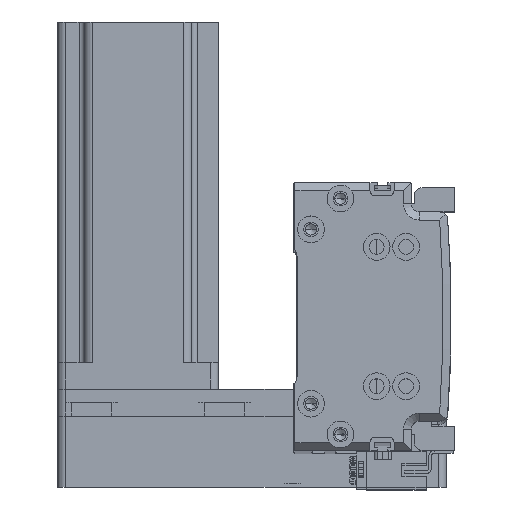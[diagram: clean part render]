
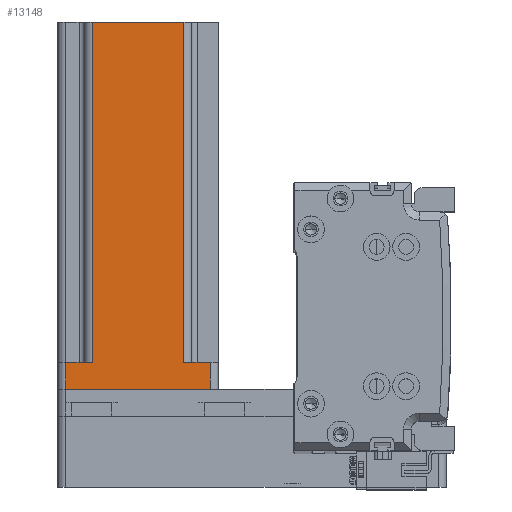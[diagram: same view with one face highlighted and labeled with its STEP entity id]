
A CAD part, top view. The second image highlights one B-rep face of the part: STEP entity #13148.
In plain terms, the highlighted planar face has unit normal (0, 0, 1) as drawn and (0, 1, 0) by its records, which use the part's own axes.
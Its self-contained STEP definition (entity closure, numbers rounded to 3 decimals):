
#174 = CARTESIAN_POINT ( 'NONE',  ( 27., 30., 10. ) ) ;
#343 = CARTESIAN_POINT ( 'NONE',  ( 30., 30., 137. ) ) ;
#631 = CARTESIAN_POINT ( 'NONE',  ( -17., 30., 137. ) ) ;
#3652 = LINE ( 'NONE', #26384, #23721 ) ;
#3833 = VECTOR ( 'NONE', #45437, 1000. ) ;
#4205 = DIRECTION ( 'NONE',  ( 1., 0., 0. ) ) ;
#4433 = DIRECTION ( 'NONE',  ( 0., 0., 1. ) ) ;
#4490 = CARTESIAN_POINT ( 'NONE',  ( -17., 30., 10. ) ) ;
#5105 = ORIENTED_EDGE ( 'NONE', *, *, #32212, .F. ) ;
#5230 = ORIENTED_EDGE ( 'NONE', *, *, #43124, .T. ) ;
#5277 = CARTESIAN_POINT ( 'NONE',  ( -27., 30., 10. ) ) ;
#5609 = PLANE ( 'NONE',  #17684 ) ;
#7301 = EDGE_CURVE ( 'NONE', #39739, #29959, #36717, .T. ) ;
#7689 = VECTOR ( 'NONE', #38710, 1000. ) ;
#8417 = CARTESIAN_POINT ( 'NONE',  ( -20., 30., 10. ) ) ;
#9297 = EDGE_CURVE ( 'NONE', #39739, #21853, #19296, .T. ) ;
#10452 = ORIENTED_EDGE ( 'NONE', *, *, #7301, .F. ) ;
#10565 = DIRECTION ( 'NONE',  ( 0., 0., -1. ) ) ;
#12074 = CARTESIAN_POINT ( 'NONE',  ( 17., 30., 137. ) ) ;
#12279 = ORIENTED_EDGE ( 'NONE', *, *, #38442, .T. ) ;
#12531 = EDGE_CURVE ( 'NONE', #24898, #43640, #17878, .T. ) ;
#12969 = VECTOR ( 'NONE', #24560, 1000. ) ;
#13148 = ADVANCED_FACE ( 'NONE', ( #27838 ), #5609, .F. ) ;
#13780 = LINE ( 'NONE', #18903, #3833 ) ;
#14311 = EDGE_CURVE ( 'NONE', #31777, #24898, #38993, .T. ) ;
#15741 = DIRECTION ( 'NONE',  ( 0., 0., 1. ) ) ;
#17684 = AXIS2_PLACEMENT_3D ( 'NONE', #343, #26777, #4205 ) ;
#17878 = LINE ( 'NONE', #8417, #38044 ) ;
#18903 = CARTESIAN_POINT ( 'NONE',  ( 27., 30., 137. ) ) ;
#19296 = LINE ( 'NONE', #12074, #28171 ) ;
#19492 = LINE ( 'NONE', #631, #48574 ) ;
#19963 = ORIENTED_EDGE ( 'NONE', *, *, #14311, .T. ) ;
#20521 = CARTESIAN_POINT ( 'NONE',  ( -17., 30., 137. ) ) ;
#21606 = CARTESIAN_POINT ( 'NONE',  ( 17., 30., 137. ) ) ;
#21853 = VERTEX_POINT ( 'NONE', #39323 ) ;
#23721 = VECTOR ( 'NONE', #48971, 1000. ) ;
#24090 = VERTEX_POINT ( 'NONE', #174 ) ;
#24560 = DIRECTION ( 'NONE',  ( -1., 0., 0. ) ) ;
#24898 = VERTEX_POINT ( 'NONE', #5277 ) ;
#25183 = EDGE_CURVE ( 'NONE', #43640, #29959, #19492, .T. ) ;
#25212 = ORIENTED_EDGE ( 'NONE', *, *, #9297, .T. ) ;
#26384 = CARTESIAN_POINT ( 'NONE',  ( 20., 30., 10. ) ) ;
#26777 = DIRECTION ( 'NONE',  ( 0., -1., 0. ) ) ;
#27159 = CARTESIAN_POINT ( 'NONE',  ( -27., 30., 137. ) ) ;
#27685 = VECTOR ( 'NONE', #15741, 1000. ) ;
#27838 = FACE_OUTER_BOUND ( 'NONE', #45141, .T. ) ;
#28171 = VECTOR ( 'NONE', #10565, 1000. ) ;
#28522 = CARTESIAN_POINT ( 'NONE',  ( 30., 30., 137. ) ) ;
#29959 = VERTEX_POINT ( 'NONE', #20521 ) ;
#31777 = VERTEX_POINT ( 'NONE', #46698 ) ;
#31784 = CARTESIAN_POINT ( 'NONE',  ( 27., 30., 0. ) ) ;
#32212 = EDGE_CURVE ( 'NONE', #24090, #21853, #3652, .T. ) ;
#33124 = ORIENTED_EDGE ( 'NONE', *, *, #12531, .T. ) ;
#34918 = DIRECTION ( 'NONE',  ( 1., 0., 0. ) ) ;
#35261 = VERTEX_POINT ( 'NONE', #31784 ) ;
#36717 = LINE ( 'NONE', #28522, #7689 ) ;
#38044 = VECTOR ( 'NONE', #34918, 1000. ) ;
#38442 = EDGE_CURVE ( 'NONE', #35261, #31777, #43243, .T. ) ;
#38710 = DIRECTION ( 'NONE',  ( -1., 0., 0. ) ) ;
#38993 = LINE ( 'NONE', #27159, #27685 ) ;
#39323 = CARTESIAN_POINT ( 'NONE',  ( 17., 30., 10. ) ) ;
#39739 = VERTEX_POINT ( 'NONE', #21606 ) ;
#41919 = ORIENTED_EDGE ( 'NONE', *, *, #25183, .T. ) ;
#43124 = EDGE_CURVE ( 'NONE', #24090, #35261, #13780, .T. ) ;
#43243 = LINE ( 'NONE', #43470, #12969 ) ;
#43470 = CARTESIAN_POINT ( 'NONE',  ( 30., 30., 0. ) ) ;
#43640 = VERTEX_POINT ( 'NONE', #4490 ) ;
#45141 = EDGE_LOOP ( 'NONE', ( #33124, #41919, #10452, #25212, #5105, #5230, #12279, #19963 ) ) ;
#45437 = DIRECTION ( 'NONE',  ( 0., 0., -1. ) ) ;
#46698 = CARTESIAN_POINT ( 'NONE',  ( -27., 30., 0. ) ) ;
#48574 = VECTOR ( 'NONE', #4433, 1000. ) ;
#48971 = DIRECTION ( 'NONE',  ( -1., 0., 0. ) ) ;
